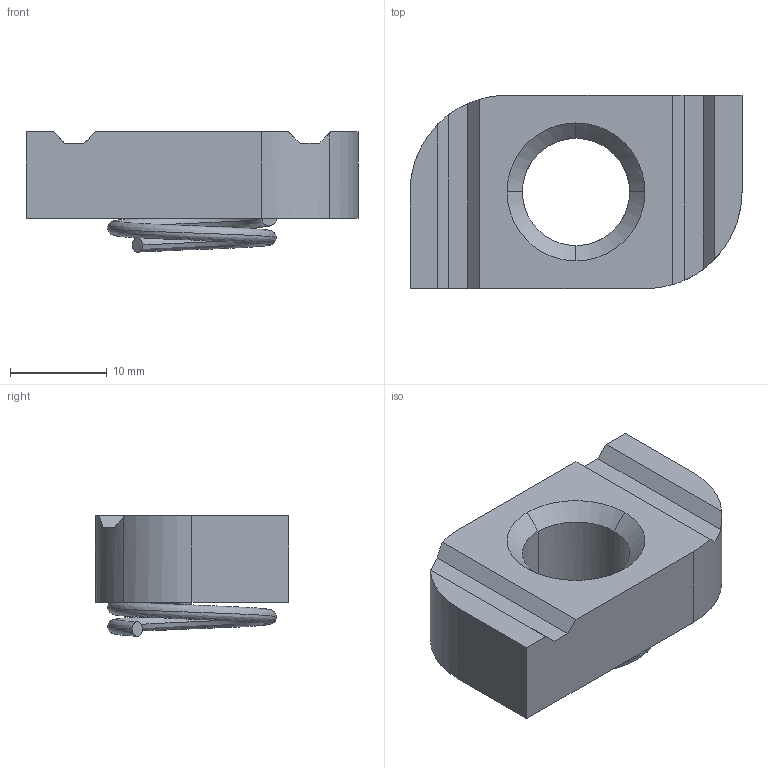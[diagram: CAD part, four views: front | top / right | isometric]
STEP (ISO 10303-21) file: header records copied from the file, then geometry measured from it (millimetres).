
FILE_DESCRIPTION(('TurboCAD Mac Pro'),'Build 980');
FILE_NAME('P4009.stp',' ',(''),(''),'ACIS Interop','IMSI','TurboCAD Mac Pro BY IMSI, INCORPORATED');
FILE_SCHEMA(('automotive_design'));
Length unit declared in the file: inch
Products named in the file (1): 1
Bounding box: 34.4 x 20 x 12.49 mm (x, y, z)
Volume: 4855 mm3; surface area: 2580.6 mm2
Topology: 1 solids, 1 shells, 30 faces, 75 edges, 48 vertices
Faces by surface type: plane 16, bspline 10, cylinder 4
Entity records: 2496 total; most frequent: CARTESIAN_POINT 1552, ORIENTED_EDGE 150, DIRECTION 121, EDGE_CURVE 75, VERTEX_POINT 48, LINE 41, VECTOR 41, AXIS2_PLACEMENT_3D 40
